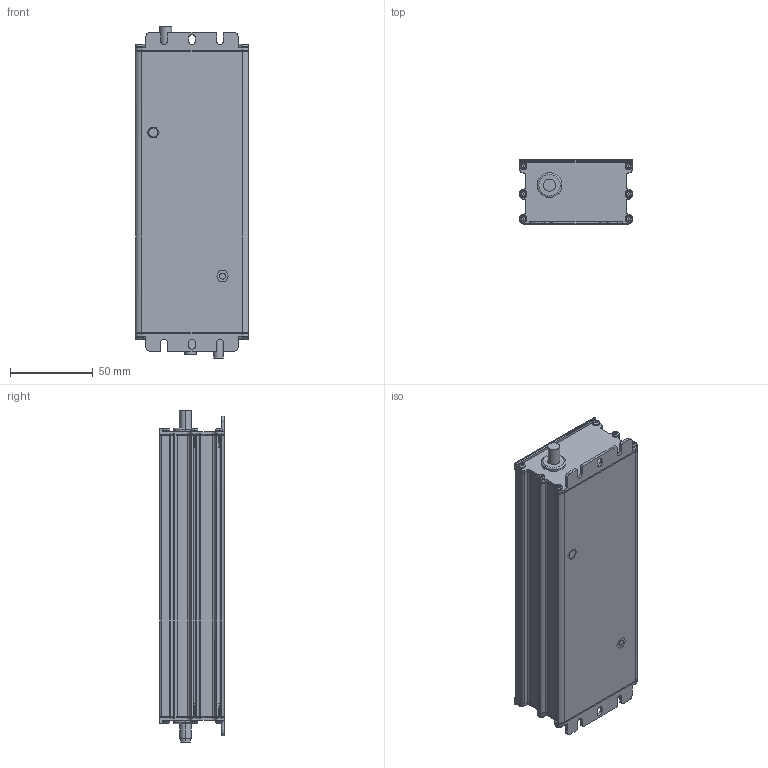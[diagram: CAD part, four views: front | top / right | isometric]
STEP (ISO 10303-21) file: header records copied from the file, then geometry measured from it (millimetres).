
FILE_DESCRIPTION((''),'2;1');
FILE_NAME('OT-200_ASM_ASM','2021-02-03T',('RI1130'),(''),'PRO/ENGINEER BY PARAMETRIC TECHNOLOGY CORPORATION, 2014320','PRO/ENGINEER BY PARAMETRIC TECHNOLOGY CORPORATION, 2014320','');
FILE_SCHEMA(('CONFIG_CONTROL_DESIGN'));
Length unit declared in the file: millimetre
Products named in the file (15): PRT0009; PRT0010; PRT0011; PRT0012; PRT0013; PRT0014; PRT0015; PRT0016; OT-200_1_ASM_ASM; PRT0017; PRT0018; OT-200_2_ASM_ASM; OT-200_0_ASM_ASM; ASM0014_ASM; OT-200_ASM_ASM
Assembly tree (27 placements, depth 5):
  OT-200_ASM_ASM
    ASM0014_ASM
      OT-200_0_ASM_ASM
        PRT0009
        PRT0010
        PRT0011
        PRT0012
        OT-200_1_ASM_ASM
          PRT0013
          PRT0014
          PRT0015
          PRT0016  x2
        OT-200_2_ASM_ASM
          PRT0017  x12
          PRT0018  x2
Bounding box: 68 x 39 x 201.2 mm (x, y, z)
Volume: 83193.5 mm3; surface area: 105063.4 mm2
Topology: 23 solids, 23 shells, 1108 faces, 3093 edges, 2072 vertices
Faces by surface type: cylinder 523, plane 389, bspline 96, torus 60, extrusion 40
Entity records: 20015 total; most frequent: CARTESIAN_POINT 5644, DIRECTION 3040, ORIENTED_EDGE 2938, EDGE_CURVE 1469, AXIS2_PLACEMENT_3D 1118, VERTEX_POINT 993, VECTOR 804, LINE 772
